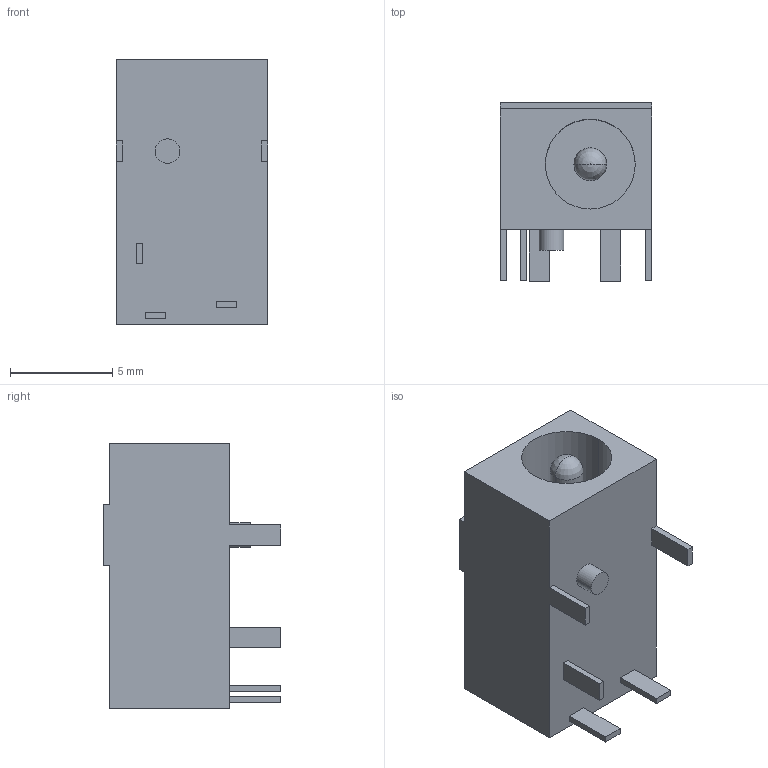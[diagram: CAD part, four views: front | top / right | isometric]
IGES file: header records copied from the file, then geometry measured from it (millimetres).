
Start section:  PTC IGES file: dc-jack-hch_prt.igs
Global section: file name: dc-jack-hch_prt.igs; native system: Pro/ENGINEER by Parametric Technology Corporation; preprocessor: 2000030; author: ECaille; organization: Unknown; date: 000803.091931; units: millimetre
Bounding box: 7.4 x 8.7 x 13 mm (x, y, z)
Surface area: 628.2 mm2 (no closed solid volume)
Topology: 0 solids, 0 shells, 44 faces, 343 edges, 467 vertices
Faces by surface type: bspline 36, revolution 8
